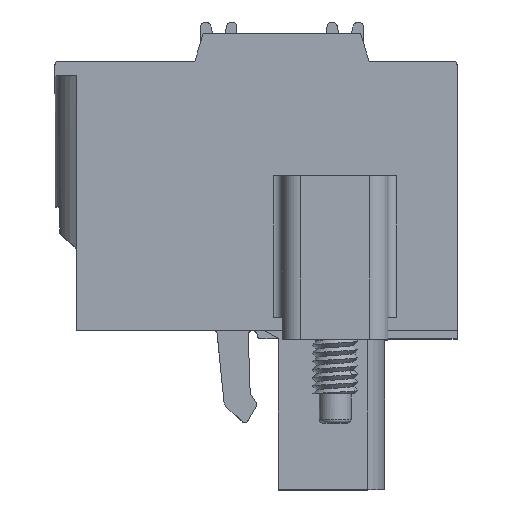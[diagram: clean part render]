
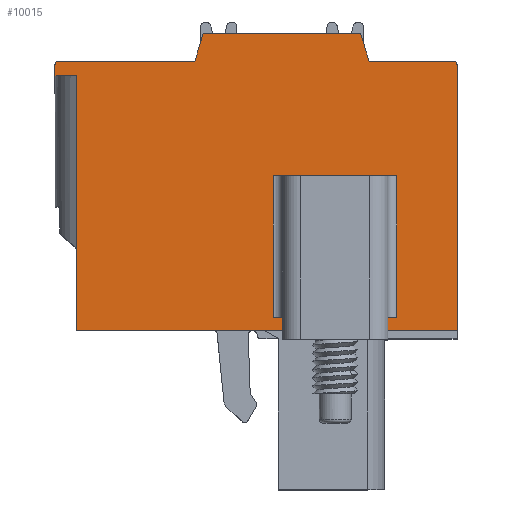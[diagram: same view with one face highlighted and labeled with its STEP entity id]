
A CAD part, top view. The second image highlights one B-rep face of the part: STEP entity #10015.
In plain terms, the highlighted planar face has unit normal (0, 0, 1).
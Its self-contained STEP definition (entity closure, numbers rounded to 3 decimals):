
#9=DIRECTION('',(-1.,0.,0.));
#10=VECTOR('',#9,20.9);
#11=CARTESIAN_POINT('',(22.1,8.75,-19.43));
#12=LINE('',#11,#10);
#440=DIRECTION('',(-1.,0.,0.));
#441=VECTOR('',#440,6.8);
#442=CARTESIAN_POINT('',(18.8,17.25,-19.43));
#443=LINE('',#442,#441);
#444=DIRECTION('',(0.,-1.,0.));
#445=VECTOR('',#444,14.6);
#446=CARTESIAN_POINT('',(22.1,23.35,-19.43));
#447=LINE('',#446,#445);
#448=DIRECTION('',(0.,1.,0.));
#449=VECTOR('',#448,14.);
#450=CARTESIAN_POINT('',(1.2,8.75,-19.43));
#451=LINE('',#450,#449);
#452=CARTESIAN_POINT('',(0.2,23.35,-19.43));
#453=DIRECTION('',(0.,0.,-1.));
#454=DIRECTION('',(-1.,0.,0.));
#455=AXIS2_PLACEMENT_3D('',#452,#453,#454);
#457=DIRECTION('',(0.294,0.956,0.));
#458=VECTOR('',#457,1.569);
#459=CARTESIAN_POINT('',(7.688,23.55,-19.43));
#460=LINE('',#459,#458);
#461=DIRECTION('',(0.294,-0.956,0.));
#462=VECTOR('',#461,1.569);
#463=CARTESIAN_POINT('',(16.8,25.05,-19.43));
#464=LINE('',#463,#462);
#465=CARTESIAN_POINT('',(21.9,23.35,-19.43));
#466=DIRECTION('',(0.,0.,-1.));
#467=DIRECTION('',(0.,1.,0.));
#468=AXIS2_PLACEMENT_3D('',#465,#466,#467);
#470=DIRECTION('',(0.,1.,0.));
#471=VECTOR('',#470,7.8);
#472=CARTESIAN_POINT('',(12.,9.45,-19.43));
#473=LINE('',#472,#471);
#526=DIRECTION('',(0.,-1.,0.));
#527=VECTOR('',#526,7.8);
#528=CARTESIAN_POINT('',(18.8,17.25,-19.43));
#529=LINE('',#528,#527);
#534=DIRECTION('',(-1.,0.,0.));
#535=VECTOR('',#534,0.5);
#536=CARTESIAN_POINT('',(18.8,9.45,-19.43));
#537=LINE('',#536,#535);
#543=DIRECTION('',(-1.,0.,0.));
#544=VECTOR('',#543,0.5);
#545=CARTESIAN_POINT('',(12.5,9.45,-19.43));
#546=LINE('',#545,#544);
#552=DIRECTION('',(0.,-1.,0.));
#553=VECTOR('',#552,0.24);
#554=CARTESIAN_POINT('',(18.3,9.45,-19.43));
#555=LINE('',#554,#553);
#568=DIRECTION('',(1.,0.,0.));
#569=VECTOR('',#568,5.8);
#570=CARTESIAN_POINT('',(12.5,9.21,-19.43));
#571=LINE('',#570,#569);
#572=DIRECTION('',(0.,-1.,0.));
#573=VECTOR('',#572,0.24);
#574=CARTESIAN_POINT('',(12.5,9.45,-19.43));
#575=LINE('',#574,#573);
#1966=DIRECTION('',(1.,0.,0.));
#1967=VECTOR('',#1966,1.2);
#1968=CARTESIAN_POINT('',(0.,22.75,-19.43));
#1969=LINE('',#1968,#1967);
#2308=DIRECTION('',(-1.,0.,0.));
#2309=VECTOR('',#2308,7.488);
#2310=CARTESIAN_POINT('',(7.688,23.55,-19.43));
#2311=LINE('',#2310,#2309);
#2518=DIRECTION('',(0.,-1.,0.));
#2519=VECTOR('',#2518,0.6);
#2520=CARTESIAN_POINT('',(0.,23.35,-19.43));
#2521=LINE('',#2520,#2519);
#3218=DIRECTION('',(-1.,0.,0.));
#3219=VECTOR('',#3218,4.638);
#3220=CARTESIAN_POINT('',(21.9,23.55,-19.43));
#3221=LINE('',#3220,#3219);
#3659=DIRECTION('',(-1.,0.,0.));
#3660=VECTOR('',#3659,8.65);
#3661=CARTESIAN_POINT('',(16.8,25.05,-19.43));
#3662=LINE('',#3661,#3660);
#7526=CARTESIAN_POINT('',(22.1,23.35,-19.43));
#7528=VERTEX_POINT('',#7526);
#7611=CARTESIAN_POINT('',(1.2,22.75,-19.43));
#7612=VERTEX_POINT('',#7611);
#7867=CARTESIAN_POINT('',(21.9,23.55,-19.43));
#7868=VERTEX_POINT('',#7867);
#7869=CARTESIAN_POINT('',(0.,22.75,-19.43));
#7870=VERTEX_POINT('',#7869);
#7871=CARTESIAN_POINT('',(0.,23.35,-19.43));
#7872=VERTEX_POINT('',#7871);
#7873=CARTESIAN_POINT('',(0.2,23.55,-19.43));
#7874=VERTEX_POINT('',#7873);
#7875=CARTESIAN_POINT('',(7.688,23.55,-19.43));
#7876=VERTEX_POINT('',#7875);
#7877=CARTESIAN_POINT('',(8.15,25.05,-19.43));
#7878=VERTEX_POINT('',#7877);
#7879=CARTESIAN_POINT('',(16.8,25.05,-19.43));
#7880=VERTEX_POINT('',#7879);
#7881=CARTESIAN_POINT('',(17.262,23.55,-19.43));
#7882=VERTEX_POINT('',#7881);
#7883=CARTESIAN_POINT('',(18.8,17.25,-19.43));
#7884=CARTESIAN_POINT('',(12.,17.25,-19.43));
#7885=VERTEX_POINT('',#7883);
#7886=VERTEX_POINT('',#7884);
#8967=CARTESIAN_POINT('',(22.1,8.75,-19.43));
#8968=CARTESIAN_POINT('',(1.2,8.75,-19.43));
#8969=VERTEX_POINT('',#8967);
#8970=VERTEX_POINT('',#8968);
#8993=CARTESIAN_POINT('',(18.8,9.45,-19.43));
#8994=CARTESIAN_POINT('',(18.3,9.45,-19.43));
#8995=VERTEX_POINT('',#8993);
#8996=VERTEX_POINT('',#8994);
#8997=CARTESIAN_POINT('',(12.5,9.45,-19.43));
#8998=CARTESIAN_POINT('',(12.,9.45,-19.43));
#8999=VERTEX_POINT('',#8997);
#9000=VERTEX_POINT('',#8998);
#9001=CARTESIAN_POINT('',(12.5,9.21,-19.43));
#9002=CARTESIAN_POINT('',(18.3,9.21,-19.43));
#9003=VERTEX_POINT('',#9001);
#9004=VERTEX_POINT('',#9002);
#9970=CARTESIAN_POINT('',(15.5,15.75,-19.43));
#9971=DIRECTION('',(0.,0.,1.));
#9972=DIRECTION('',(1.,0.,0.));
#9973=AXIS2_PLACEMENT_3D('',#9970,#9971,#9972);
#9974=PLANE('',#9973);
#9975=ORIENTED_EDGE('',*,*,#9243,.T.);
#9976=ORIENTED_EDGE('',*,*,#9259,.T.);
#9977=ORIENTED_EDGE('',*,*,#9416,.T.);
#9979=ORIENTED_EDGE('',*,*,#9978,.F.);
#9981=ORIENTED_EDGE('',*,*,#9980,.F.);
#9983=ORIENTED_EDGE('',*,*,#9982,.T.);
#9985=ORIENTED_EDGE('',*,*,#9984,.F.);
#9987=ORIENTED_EDGE('',*,*,#9986,.T.);
#9989=ORIENTED_EDGE('',*,*,#9988,.F.);
#9991=ORIENTED_EDGE('',*,*,#9990,.T.);
#9993=ORIENTED_EDGE('',*,*,#9992,.F.);
#9994=ORIENTED_EDGE('',*,*,#9962,.T.);
#9995=EDGE_LOOP('',(#9975,#9976,#9977,#9979,#9981,#9983,#9985,#9987,#9989,#9991,
#9993,#9994));
#9996=FACE_OUTER_BOUND('',#9995,.F.);
#9998=ORIENTED_EDGE('',*,*,#9997,.F.);
#10000=ORIENTED_EDGE('',*,*,#9999,.F.);
#10002=ORIENTED_EDGE('',*,*,#10001,.T.);
#10004=ORIENTED_EDGE('',*,*,#10003,.T.);
#10006=ORIENTED_EDGE('',*,*,#10005,.F.);
#10008=ORIENTED_EDGE('',*,*,#10007,.F.);
#10010=ORIENTED_EDGE('',*,*,#10009,.F.);
#10012=ORIENTED_EDGE('',*,*,#10011,.T.);
#10013=EDGE_LOOP('',(#9998,#10000,#10002,#10004,#10006,#10008,#10010,#10012));
#10014=FACE_BOUND('',#10013,.F.);
#10015=ADVANCED_FACE('',(#9996,#10014),#9974,.T.);
#456=CIRCLE('',#455,0.2);
#469=CIRCLE('',#468,0.2);
#9243=EDGE_CURVE('',#7528,#8969,#447,.T.);
#9259=EDGE_CURVE('',#8969,#8970,#12,.T.);
#9416=EDGE_CURVE('',#8970,#7612,#451,.T.);
#9962=EDGE_CURVE('',#7868,#7528,#469,.T.);
#9978=EDGE_CURVE('',#7870,#7612,#1969,.T.);
#9980=EDGE_CURVE('',#7872,#7870,#2521,.T.);
#9982=EDGE_CURVE('',#7872,#7874,#456,.T.);
#9984=EDGE_CURVE('',#7876,#7874,#2311,.T.);
#9986=EDGE_CURVE('',#7876,#7878,#460,.T.);
#9988=EDGE_CURVE('',#7880,#7878,#3662,.T.);
#9990=EDGE_CURVE('',#7880,#7882,#464,.T.);
#9992=EDGE_CURVE('',#7868,#7882,#3221,.T.);
#9997=EDGE_CURVE('',#9000,#7886,#473,.T.);
#9999=EDGE_CURVE('',#8999,#9000,#546,.T.);
#10001=EDGE_CURVE('',#8999,#9003,#575,.T.);
#10003=EDGE_CURVE('',#9003,#9004,#571,.T.);
#10005=EDGE_CURVE('',#8996,#9004,#555,.T.);
#10007=EDGE_CURVE('',#8995,#8996,#537,.T.);
#10009=EDGE_CURVE('',#7885,#8995,#529,.T.);
#10011=EDGE_CURVE('',#7885,#7886,#443,.T.);
